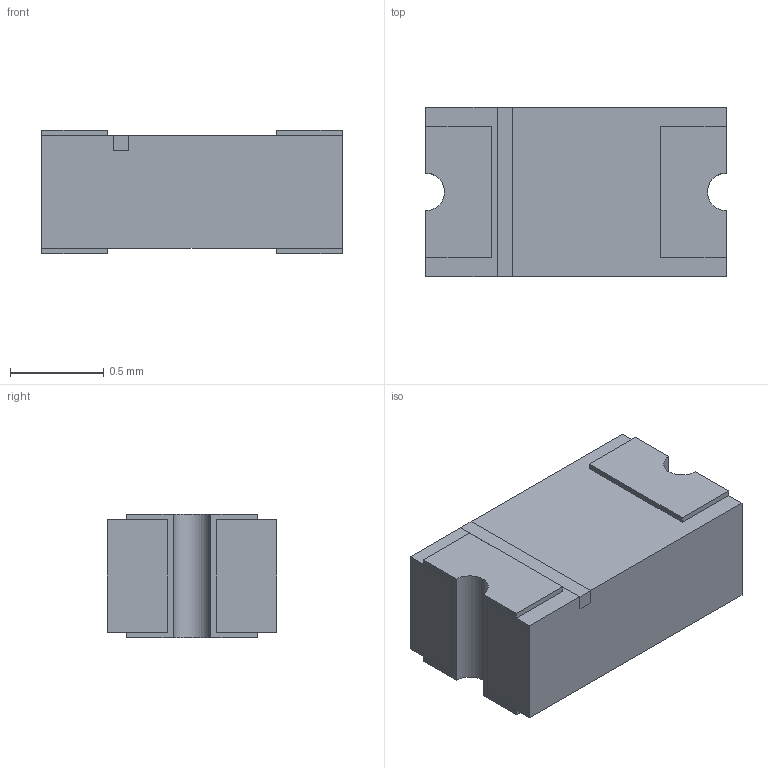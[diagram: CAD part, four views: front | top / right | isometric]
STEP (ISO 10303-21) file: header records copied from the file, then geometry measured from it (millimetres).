
FILE_DESCRIPTION(('FreeCAD Model'),'2;1');
FILE_NAME('Open CASCADE Shape Model','2025-02-28T22:03:26',( 'Krisjanis Rijnieks'),(''),'Open CASCADE STEP processor 7.7', 'FreeCAD','Unknown');
FILE_SCHEMA(('AUTOMOTIVE_DESIGN { 1 0 10303 214 1 1 1 1 }'));
Length unit declared in the file: millimetre
Products named in the file (5): Schottky-0603; Body; ConnectorA; ConnectorB; Bar
Assembly tree (4 placements, depth 2):
  Schottky-0603
    Body
    ConnectorA
    ConnectorB
    Bar
Bounding box: 1.6 x 0.9 x 0.66 mm (x, y, z)
Volume: 0.9 mm3; surface area: 9.4 mm2
Topology: 4 solids, 4 shells, 48 faces, 124 edges, 84 vertices
Faces by surface type: plane 42, cylinder 6
Entity records: 1576 total; most frequent: CARTESIAN_POINT 261, ORIENTED_EDGE 248, DIRECTION 246, EDGE_CURVE 124, LINE 108, VECTOR 108, VERTEX_POINT 84, AXIS2_PLACEMENT_3D 69
